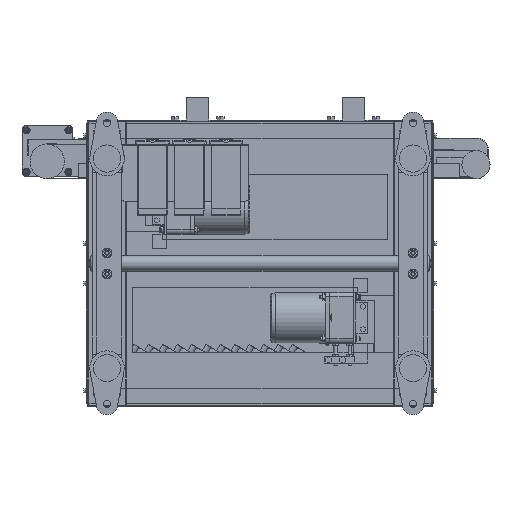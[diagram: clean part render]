
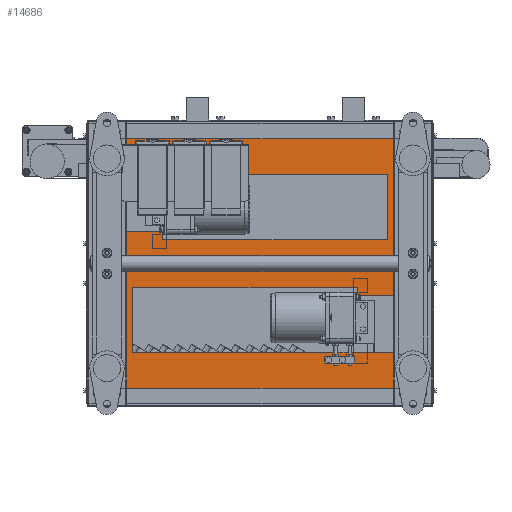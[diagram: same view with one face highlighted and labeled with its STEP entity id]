
A CAD part, front view. The second image highlights one B-rep face of the part: STEP entity #14686.
In plain terms, the highlighted planar face has unit normal (0, -1, 0).
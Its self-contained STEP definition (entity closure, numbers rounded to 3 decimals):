
#244 = ORIENTED_EDGE ( 'NONE', *, *, #26588, .T. ) ;
#1305 = ORIENTED_EDGE ( 'NONE', *, *, #10758, .F. ) ;
#1375 = EDGE_CURVE ( 'NONE', #39007, #24468, #48297, .T. ) ;
#1470 = VECTOR ( 'NONE', #49933, 1000. ) ;
#2170 = VERTEX_POINT ( 'NONE', #6853 ) ;
#2984 = VECTOR ( 'NONE', #24225, 1000. ) ;
#3058 = ORIENTED_EDGE ( 'NONE', *, *, #13750, .T. ) ;
#4105 = CARTESIAN_POINT ( 'NONE',  ( 3., -93., -500000. ) ) ;
#4114 = CARTESIAN_POINT ( 'NONE',  ( 477., -93., -57. ) ) ;
#4702 = CARTESIAN_POINT ( 'NONE',  ( 80., -93., -157. ) ) ;
#5039 = AXIS2_PLACEMENT_3D ( 'NONE', #12675, #50035, #36873 ) ;
#5128 = EDGE_CURVE ( 'NONE', #33167, #28920, #23786, .T. ) ;
#6227 = CARTESIAN_POINT ( 'NONE',  ( 133., -93., 42. ) ) ;
#6621 = LINE ( 'NONE', #23488, #13741 ) ;
#6853 = CARTESIAN_POINT ( 'NONE',  ( 530., -93., 42. ) ) ;
#7277 = LINE ( 'NONE', #33393, #11564 ) ;
#7424 = DIRECTION ( 'NONE',  ( 0., 0., -1. ) ) ;
#7533 = DIRECTION ( 'NONE',  ( 0., 0., 1. ) ) ;
#7775 = EDGE_LOOP ( 'NONE', ( #32589, #8850, #20722, #244, #23235, #3058 ) ) ;
#7924 = LINE ( 'NONE', #52566, #54943 ) ;
#8478 = VERTEX_POINT ( 'NONE', #16593 ) ;
#8850 = ORIENTED_EDGE ( 'NONE', *, *, #57686, .T. ) ;
#10139 = DIRECTION ( 'NONE',  ( 0., 0., 1. ) ) ;
#10410 = EDGE_CURVE ( 'NONE', #2170, #52309, #7924, .T. ) ;
#10758 = EDGE_CURVE ( 'NONE', #58295, #39007, #47669, .T. ) ;
#11202 = CARTESIAN_POINT ( 'NONE',  ( 80., -93., -42. ) ) ;
#11564 = VECTOR ( 'NONE', #28743, 1000. ) ;
#11911 = VERTEX_POINT ( 'NONE', #17843 ) ;
#12611 = CARTESIAN_POINT ( 'NONE',  ( 610., -93., 247. ) ) ;
#12675 = CARTESIAN_POINT ( 'NONE',  ( 610., -93., -500000. ) ) ;
#13741 = VECTOR ( 'NONE', #46474, 1000. ) ;
#13750 = EDGE_CURVE ( 'NONE', #8478, #24222, #50771, .T. ) ;
#14265 = DIRECTION ( 'NONE',  ( 0., 0., -1. ) ) ;
#14549 = VERTEX_POINT ( 'NONE', #28740 ) ;
#14686 = ADVANCED_FACE ( 'NONE', ( #55621, #33515, #23480 ), #39819, .F. ) ;
#14811 = VERTEX_POINT ( 'NONE', #49794 ) ;
#15724 = CARTESIAN_POINT ( 'NONE',  ( 40., -93., 57. ) ) ;
#16281 = CARTESIAN_POINT ( 'NONE',  ( 80., -93., -157. ) ) ;
#16593 = CARTESIAN_POINT ( 'NONE',  ( 80., -93., -42. ) ) ;
#17843 = CARTESIAN_POINT ( 'NONE',  ( 570., -93., -157. ) ) ;
#17855 = VECTOR ( 'NONE', #18446, 1000. ) ;
#18225 = EDGE_CURVE ( 'NONE', #24222, #43022, #26607, .T. ) ;
#18446 = DIRECTION ( 'NONE',  ( -1., 0., 0. ) ) ;
#18526 = VECTOR ( 'NONE', #10139, 1000. ) ;
#18582 = VECTOR ( 'NONE', #43212, 1000. ) ;
#18604 = DIRECTION ( 'NONE',  ( 1., 0., 0. ) ) ;
#18719 = CARTESIAN_POINT ( 'NONE',  ( 570., -93., -57. ) ) ;
#19520 = VECTOR ( 'NONE', #14265, 1000. ) ;
#19628 = CARTESIAN_POINT ( 'NONE',  ( 530., -93., 157. ) ) ;
#20039 = DIRECTION ( 'NONE',  ( 0., 0., 1. ) ) ;
#20547 = EDGE_CURVE ( 'NONE', #33758, #11911, #29710, .T. ) ;
#20722 = ORIENTED_EDGE ( 'NONE', *, *, #20547, .T. ) ;
#21410 = LINE ( 'NONE', #44390, #1470 ) ;
#22804 = VERTEX_POINT ( 'NONE', #40613 ) ;
#23235 = ORIENTED_EDGE ( 'NONE', *, *, #31318, .T. ) ;
#23480 = FACE_OUTER_BOUND ( 'NONE', #39078, .T. ) ;
#23488 = CARTESIAN_POINT ( 'NONE',  ( 530., -93., 157. ) ) ;
#23786 = LINE ( 'NONE', #28056, #36703 ) ;
#24222 = VERTEX_POINT ( 'NONE', #54718 ) ;
#24225 = DIRECTION ( 'NONE',  ( -1., 0., 0. ) ) ;
#24346 = VECTOR ( 'NONE', #52453, 1000. ) ;
#24468 = VERTEX_POINT ( 'NONE', #36438 ) ;
#26343 = EDGE_CURVE ( 'NONE', #14811, #58295, #7277, .T. ) ;
#26535 = CARTESIAN_POINT ( 'NONE',  ( 477., -93., -57. ) ) ;
#26588 = EDGE_CURVE ( 'NONE', #11911, #39606, #54226, .T. ) ;
#26607 = LINE ( 'NONE', #4114, #19520 ) ;
#26802 = ORIENTED_EDGE ( 'NONE', *, *, #51005, .T. ) ;
#26842 = VECTOR ( 'NONE', #44507, 1000. ) ;
#26984 = ORIENTED_EDGE ( 'NONE', *, *, #5128, .T. ) ;
#28056 = CARTESIAN_POINT ( 'NONE',  ( 530., -93., 157. ) ) ;
#28740 = CARTESIAN_POINT ( 'NONE',  ( 40., -93., 57. ) ) ;
#28743 = DIRECTION ( 'NONE',  ( -1., 0., 0. ) ) ;
#28920 = VERTEX_POINT ( 'NONE', #19628 ) ;
#29710 = LINE ( 'NONE', #34677, #44820 ) ;
#29718 = VECTOR ( 'NONE', #44603, 1000. ) ;
#29993 = CARTESIAN_POINT ( 'NONE',  ( 3., -93., 247. ) ) ;
#31318 = EDGE_CURVE ( 'NONE', #39606, #8478, #41347, .T. ) ;
#32548 = CARTESIAN_POINT ( 'NONE',  ( 80., -93., -42. ) ) ;
#32589 = ORIENTED_EDGE ( 'NONE', *, *, #18225, .T. ) ;
#32602 = EDGE_CURVE ( 'NONE', #14811, #24468, #38965, .T. ) ;
#33167 = VERTEX_POINT ( 'NONE', #37116 ) ;
#33393 = CARTESIAN_POINT ( 'NONE',  ( 610., -93., -247. ) ) ;
#33515 = FACE_BOUND ( 'NONE', #41720, .T. ) ;
#33758 = VERTEX_POINT ( 'NONE', #18719 ) ;
#34437 = ORIENTED_EDGE ( 'NONE', *, *, #1375, .F. ) ;
#34677 = CARTESIAN_POINT ( 'NONE',  ( 570., -93., -57. ) ) ;
#35706 = VECTOR ( 'NONE', #7533, 1000. ) ;
#36438 = CARTESIAN_POINT ( 'NONE',  ( 607., -93., 247. ) ) ;
#36703 = VECTOR ( 'NONE', #18604, 1000. ) ;
#36873 = DIRECTION ( 'NONE',  ( -1., 0., 0. ) ) ;
#37116 = CARTESIAN_POINT ( 'NONE',  ( 40., -93., 157. ) ) ;
#37622 = ORIENTED_EDGE ( 'NONE', *, *, #10410, .T. ) ;
#38143 = EDGE_CURVE ( 'NONE', #52309, #22804, #53522, .T. ) ;
#38965 = LINE ( 'NONE', #56350, #41805 ) ;
#39007 = VERTEX_POINT ( 'NONE', #29993 ) ;
#39078 = EDGE_LOOP ( 'NONE', ( #47689, #34437, #1305, #41475 ) ) ;
#39606 = VERTEX_POINT ( 'NONE', #16281 ) ;
#39815 = CARTESIAN_POINT ( 'NONE',  ( 133., -93., 57. ) ) ;
#39819 = PLANE ( 'NONE',  #5039 ) ;
#40613 = CARTESIAN_POINT ( 'NONE',  ( 133., -93., 57. ) ) ;
#41347 = LINE ( 'NONE', #32548, #18526 ) ;
#41475 = ORIENTED_EDGE ( 'NONE', *, *, #26343, .F. ) ;
#41720 = EDGE_LOOP ( 'NONE', ( #56616, #51551, #47013, #26984, #26802, #37622 ) ) ;
#41741 = EDGE_CURVE ( 'NONE', #14549, #33167, #54957, .T. ) ;
#41805 = VECTOR ( 'NONE', #20039, 1000. ) ;
#43022 = VERTEX_POINT ( 'NONE', #26535 ) ;
#43212 = DIRECTION ( 'NONE',  ( 0., 0., 1. ) ) ;
#44390 = CARTESIAN_POINT ( 'NONE',  ( 570., -93., -57. ) ) ;
#44507 = DIRECTION ( 'NONE',  ( 1., 0., 0. ) ) ;
#44603 = DIRECTION ( 'NONE',  ( 0., 0., 1. ) ) ;
#44820 = VECTOR ( 'NONE', #7424, 1000. ) ;
#45698 = CARTESIAN_POINT ( 'NONE',  ( 3., -93., -247. ) ) ;
#46474 = DIRECTION ( 'NONE',  ( 0., 0., -1. ) ) ;
#47013 = ORIENTED_EDGE ( 'NONE', *, *, #41741, .T. ) ;
#47669 = LINE ( 'NONE', #4105, #29718 ) ;
#47689 = ORIENTED_EDGE ( 'NONE', *, *, #32602, .T. ) ;
#48297 = LINE ( 'NONE', #12611, #26842 ) ;
#49794 = CARTESIAN_POINT ( 'NONE',  ( 607., -93., -247. ) ) ;
#49933 = DIRECTION ( 'NONE',  ( 1., 0., 0. ) ) ;
#50035 = DIRECTION ( 'NONE',  ( 0., 1., 0. ) ) ;
#50664 = EDGE_CURVE ( 'NONE', #22804, #14549, #55772, .T. ) ;
#50771 = LINE ( 'NONE', #11202, #24346 ) ;
#51005 = EDGE_CURVE ( 'NONE', #28920, #2170, #6621, .T. ) ;
#51551 = ORIENTED_EDGE ( 'NONE', *, *, #50664, .T. ) ;
#52309 = VERTEX_POINT ( 'NONE', #6227 ) ;
#52453 = DIRECTION ( 'NONE',  ( 1., 0., 0. ) ) ;
#52566 = CARTESIAN_POINT ( 'NONE',  ( 530., -93., 42. ) ) ;
#52955 = DIRECTION ( 'NONE',  ( -1., 0., 0. ) ) ;
#52969 = CARTESIAN_POINT ( 'NONE',  ( 40., -93., 157. ) ) ;
#53522 = LINE ( 'NONE', #39815, #35706 ) ;
#54226 = LINE ( 'NONE', #4702, #17855 ) ;
#54718 = CARTESIAN_POINT ( 'NONE',  ( 477., -93., -42. ) ) ;
#54943 = VECTOR ( 'NONE', #52955, 1000. ) ;
#54957 = LINE ( 'NONE', #52969, #18582 ) ;
#55621 = FACE_BOUND ( 'NONE', #7775, .T. ) ;
#55772 = LINE ( 'NONE', #15724, #2984 ) ;
#56350 = CARTESIAN_POINT ( 'NONE',  ( 607., -93., -500000. ) ) ;
#56616 = ORIENTED_EDGE ( 'NONE', *, *, #38143, .T. ) ;
#57686 = EDGE_CURVE ( 'NONE', #43022, #33758, #21410, .T. ) ;
#58295 = VERTEX_POINT ( 'NONE', #45698 ) ;
